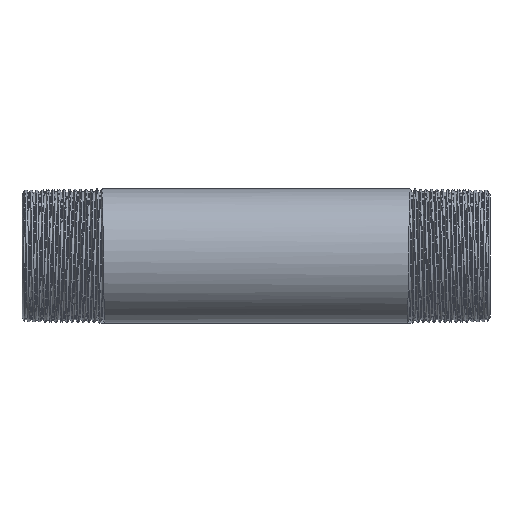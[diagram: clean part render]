
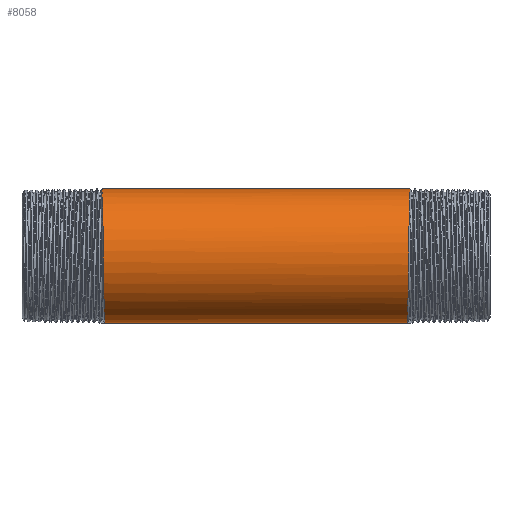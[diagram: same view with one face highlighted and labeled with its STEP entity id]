
A CAD part, front view. The second image highlights one B-rep face of the part: STEP entity #8058.
In plain terms, the highlighted cylindrical face has radius 8.6 mm (diameter 17.2 mm), a partial arc.
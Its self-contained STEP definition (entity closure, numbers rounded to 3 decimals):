
#511 = CARTESIAN_POINT ( 'NONE',  ( 19.676, -4.333, 7.514 ) ) ;
#568 = CARTESIAN_POINT ( 'NONE',  ( 19.581, -8.5, 1.348 ) ) ;
#575 = ORIENTED_EDGE ( 'NONE', *, *, #5582, .F. ) ;
#615 = CARTESIAN_POINT ( 'NONE',  ( 19.738, 0., 8.6 ) ) ;
#624 = CARTESIAN_POINT ( 'NONE',  ( 19.512, -7.739, -3.759 ) ) ;
#680 = CARTESIAN_POINT ( 'NONE',  ( 19.62, -7.478, 4.248 ) ) ;
#737 = CARTESIAN_POINT ( 'NONE',  ( 19.622, -7.414, 4.358 ) ) ;
#1368 = CARTESIAN_POINT ( 'NONE',  ( 19.622, -7.396, 4.388 ) ) ;
#1423 = CARTESIAN_POINT ( 'NONE',  ( 19.509, -7.642, -3.95 ) ) ;
#1534 = CARTESIAN_POINT ( 'NONE',  ( 19.552, -8.598, -0.766 ) ) ;
#1547 = CARTESIAN_POINT ( 'NONE',  ( -19.679, -4.965, 8.6 ) ) ;
#1588 = CARTESIAN_POINT ( 'NONE',  ( 19.431, -3.335, -7.934 ) ) ;
#1590 = CARTESIAN_POINT ( 'NONE',  ( -19.738, 0., 8.6 ) ) ;
#1708 = ORIENTED_EDGE ( 'NONE', *, *, #8756, .T. ) ;
#2082 = ORIENTED_EDGE ( 'NONE', *, *, #10865, .T. ) ;
#2218 = CARTESIAN_POINT ( 'NONE',  ( 19.543, -8.5, -1.441 ) ) ;
#2273 = CARTESIAN_POINT ( 'NONE',  ( 19.597, -8.237, 2.544 ) ) ;
#2331 = CARTESIAN_POINT ( 'NONE',  ( 19.502, -7.351, -4.465 ) ) ;
#2388 = CARTESIAN_POINT ( 'NONE',  ( 19.619, -7.517, 4.178 ) ) ;
#2441 = CARTESIAN_POINT ( 'NONE',  ( 19.718, -1.402, 8.49 ) ) ;
#2487 = DIRECTION ( 'NONE',  ( -1., 0., 0. ) ) ;
#2527 = DIRECTION ( 'NONE',  ( 0., 0., 1. ) ) ;
#2564 = CARTESIAN_POINT ( 'NONE',  ( -149.494, 0., -8.6 ) ) ;
#2654 = CARTESIAN_POINT ( 'NONE',  ( 19.736, -0.141, 8.599 ) ) ;
#3072 = CARTESIAN_POINT ( 'NONE',  ( -19.738, 0., 8.6 ) ) ;
#3119 = CARTESIAN_POINT ( 'NONE',  ( 19.567, -8.595, 0.341 ) ) ;
#3180 = CARTESIAN_POINT ( 'NONE',  ( 19.411, -1.843, -8.416 ) ) ;
#3242 = CARTESIAN_POINT ( 'NONE',  ( 19.504, -7.454, -4.29 ) ) ;
#3295 = CARTESIAN_POINT ( 'NONE',  ( 19.574, -8.559, 0.855 ) ) ;
#3376 = CARTESIAN_POINT ( 'NONE',  ( -149.494, 0., 0. ) ) ;
#3510 = VECTOR ( 'NONE', #2487, 1000. ) ;
#3966 = CARTESIAN_POINT ( 'NONE',  ( 19.699, -2.772, 8.16 ) ) ;
#4019 = VERTEX_POINT ( 'NONE', #1590 ) ;
#4024 = CARTESIAN_POINT ( 'NONE',  ( 19.436, -3.651, -7.795 ) ) ;
#4039 = CARTESIAN_POINT ( 'NONE',  ( -19.446, -4.965, -8.6 ) ) ;
#4131 = LINE ( 'NONE', #5039, #3510 ) ;
#4138 = CARTESIAN_POINT ( 'NONE',  ( 19.621, -7.439, 4.316 ) ) ;
#4472 = DIRECTION ( 'NONE',  ( -1., 0., 0. ) ) ;
#4821 = CARTESIAN_POINT ( 'NONE',  ( 19.662, -5.287, 6.876 ) ) ;
#4883 = CARTESIAN_POINT ( 'NONE',  ( 19.446, -4.297, -7.452 ) ) ;
#5039 = CARTESIAN_POINT ( 'NONE',  ( -149.494, 0., 8.6 ) ) ;
#5582 = EDGE_CURVE ( 'NONE', #9842, #4019, #10301, .T. ) ;
#5680 = CARTESIAN_POINT ( 'NONE',  ( 19.624, -7.315, 4.524 ) ) ;
#5699 = AXIS2_PLACEMENT_3D ( 'NONE', #3376, #9278, #2527 ) ;
#5736 = CARTESIAN_POINT ( 'NONE',  ( 19.728, -0.703, 8.572 ) ) ;
#5792 = CARTESIAN_POINT ( 'NONE',  ( 19.453, -4.755, -7.168 ) ) ;
#5846 = CARTESIAN_POINT ( 'NONE',  ( 19.397, -0.824, -8.576 ) ) ;
#5900 = CARTESIAN_POINT ( 'NONE',  ( 19.494, -6.999, -5.016 ) ) ;
#5990 = FACE_OUTER_BOUND ( 'NONE', #6929, .T. ) ;
#5992 = VECTOR ( 'NONE', #4472, 1000. ) ;
#6391 = VERTEX_POINT ( 'NONE', #11024 ) ;
#6589 = CARTESIAN_POINT ( 'NONE',  ( 19.565, -8.6, 0.168 ) ) ;
#6597 = VERTEX_POINT ( 'NONE', #615 ) ;
#6646 = CARTESIAN_POINT ( 'NONE',  ( 19.418, -2.416, -8.28 ) ) ;
#6758 = CARTESIAN_POINT ( 'NONE',  ( 19.634, -6.84, 5.244 ) ) ;
#6811 = CARTESIAN_POINT ( 'NONE',  ( 19.501, -7.295, -4.555 ) ) ;
#6922 = CARTESIAN_POINT ( 'NONE',  ( 19.731, -0.493, 8.588 ) ) ;
#6929 = EDGE_LOOP ( 'NONE', ( #10939, #2082, #1708, #575 ) ) ;
#7024 = CARTESIAN_POINT ( 'NONE',  ( 19.734, -0.246, 8.597 ) ) ;
#7436 = CARTESIAN_POINT ( 'NONE',  ( 19.722, -1.123, 8.531 ) ) ;
#7550 = CARTESIAN_POINT ( 'NONE',  ( 19.585, -8.444, 1.66 ) ) ;
#7607 = CARTESIAN_POINT ( 'NONE',  ( 19.622, -7.419, 4.349 ) ) ;
#7659 = CARTESIAN_POINT ( 'NONE',  ( 19.527, -8.214, -2.62 ) ) ;
#7688 = CYLINDRICAL_SURFACE ( 'NONE', #5699, 8.6 ) ;
#7916 = CARTESIAN_POINT ( 'NONE',  ( 19.738, 0., 8.6 ) ) ;
#8058 = ADVANCED_FACE ( 'NONE', ( #5990 ), #7688, .T. ) ;
#8273 = CARTESIAN_POINT ( 'NONE',  ( 19.572, -8.574, 0.686 ) ) ;
#8334 = CARTESIAN_POINT ( 'NONE',  ( 19.451, -4.607, -7.264 ) ) ;
#8348 = CARTESIAN_POINT ( 'NONE',  ( -19.504, -7.448, -4.3 ) ) ;
#8389 = CARTESIAN_POINT ( 'NONE',  ( 19.388, 0., -8.6 ) ) ;
#8448 = CARTESIAN_POINT ( 'NONE',  ( 19.604, -8.051, 3.062 ) ) ;
#8462 = CARTESIAN_POINT ( 'NONE',  ( -19.388, 0., -8.6 ) ) ;
#8503 = CARTESIAN_POINT ( 'NONE',  ( 19.52, -8.026, -3.124 ) ) ;
#8756 = EDGE_CURVE ( 'NONE', #6597, #4019, #4131, .T. ) ;
#9127 = CARTESIAN_POINT ( 'NONE',  ( 19.641, -6.481, 5.681 ) ) ;
#9186 = CARTESIAN_POINT ( 'NONE',  ( 19.473, -5.934, -6.251 ) ) ;
#9248 = CARTESIAN_POINT ( 'NONE',  ( 19.465, -5.466, -6.676 ) ) ;
#9278 = DIRECTION ( 'NONE',  ( -1., 0., 0. ) ) ;
#9295 = CARTESIAN_POINT ( 'NONE',  ( -19.388, 0., -8.6 ) ) ;
#9301 = CARTESIAN_POINT ( 'NONE',  ( 19.505, -7.5, -4.208 ) ) ;
#9316 = CARTESIAN_POINT ( 'NONE',  ( -19.563, -9.93, 0. ) ) ;
#9354 = CARTESIAN_POINT ( 'NONE',  ( 19.506, -7.524, -4.166 ) ) ;
#9409 = CARTESIAN_POINT ( 'NONE',  ( 19.737, -0.033, 8.6 ) ) ;
#9587 = LINE ( 'NONE', #2564, #5992 ) ;
#9842 = VERTEX_POINT ( 'NONE', #9295 ) ;
#10045 = CARTESIAN_POINT ( 'NONE',  ( 19.443, -4.133, -7.544 ) ) ;
#10060 = CARTESIAN_POINT ( 'NONE',  ( -19.738, 0., 8.6 ) ) ;
#10104 = CARTESIAN_POINT ( 'NONE',  ( 19.488, -6.7, -5.421 ) ) ;
#10119 = CARTESIAN_POINT ( 'NONE',  ( -19.738, 0., 8.6 ) ) ;
#10160 = CARTESIAN_POINT ( 'NONE',  ( 19.616, -7.647, 3.941 ) ) ;
#10214 = CARTESIAN_POINT ( 'NONE',  ( 19.706, -2.231, 8.325 ) ) ;
#10301 =( BOUNDED_CURVE ( )  B_SPLINE_CURVE ( 2, ( #8462, #4039, #8348, #9316, #10797, #1547, #10060, #10119, #3072 ),
 .UNSPECIFIED., .F., .F. ) 
 B_SPLINE_CURVE_WITH_KNOTS ( ( 3, 2, 2, 2, 3 ),
 ( 0., 0.008, 0.016, 0.023, 0.023 ),
 .UNSPECIFIED. ) 
 CURVE ( )  GEOMETRIC_REPRESENTATION_ITEM ( )  RATIONAL_B_SPLINE_CURVE ( ( 1., 0.866, 1., 0.866, 1., 0.866, 1., 1., 1. ) ) 
 REPRESENTATION_ITEM ( '' )  );
#10436 = CARTESIAN_POINT ( 'NONE',  ( 19.737, -0.07, 8.6 ) ) ;
#10742 = EDGE_CURVE ( 'NONE', #6391, #9842, #9587, .T. ) ;
#10797 = CARTESIAN_POINT ( 'NONE',  ( -19.621, -7.448, 4.3 ) ) ;
#10865 = EDGE_CURVE ( 'NONE', #6391, #6597, #10994, .T. ) ;
#10901 = CARTESIAN_POINT ( 'NONE',  ( 19.504, -7.428, -4.334 ) ) ;
#10939 = ORIENTED_EDGE ( 'NONE', *, *, #10742, .F. ) ;
#10962 = CARTESIAN_POINT ( 'NONE',  ( 19.392, -0.377, -8.6 ) ) ;
#10994 = B_SPLINE_CURVE_WITH_KNOTS ( 'NONE', 3,
 ( #8389, #10962, #5846, #3180, #6646, #1588, #4024, #10045, #4883, #8334, #5792, #9248, #9186, #10104, #5900, #6811, #2331, #10901, #3242, #9301, #9354, #1423, #624, #8503, #7659, #2218, #1534, #6589, #3119, #8273, #3295, #568, #7550, #2273, #8448, #11019, #10160, #2388, #680, #4138, #7607, #737, #1368, #5680, #11074, #6758, #9127, #4821, #511, #3966, #10214, #2441, #7436, #5736, #6922, #7024, #2654, #10436, #9409, #7916 ),
 .UNSPECIFIED., .F., .F.,
 ( 4, 2, 2, 2, 2, 2, 2, 2, 2, 2, 2, 2, 2, 2, 2, 2, 2, 2, 2, 1, 2, 2, 1, 2, 2, 2, 2, 2, 1, 1, 2, 4 ),
 ( 0., 0.001, 0.003, 0.004, 0.004, 0.004, 0.006, 0.007, 0.008, 0.008, 0.008, 0.009, 0.01, 0.012, 0.012, 0.012, 0.013, 0.015, 0.015, 0.015, 0.016, 0.016, 0.016, 0.016, 0.018, 0.02, 0.022, 0.023, 0.023, 0.023, 0.023, 0.023 ),
 .UNSPECIFIED. ) ;
#11019 = CARTESIAN_POINT ( 'NONE',  ( 19.613, -7.751, 3.734 ) ) ;
#11024 = CARTESIAN_POINT ( 'NONE',  ( 19.388, 0., -8.6 ) ) ;
#11074 = CARTESIAN_POINT ( 'NONE',  ( 19.626, -7.231, 4.658 ) ) ;
